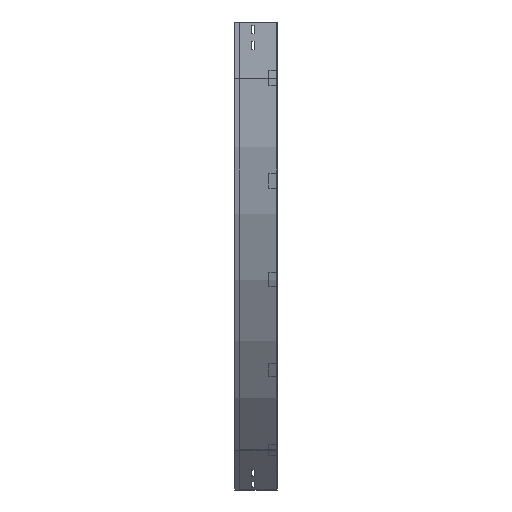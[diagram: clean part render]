
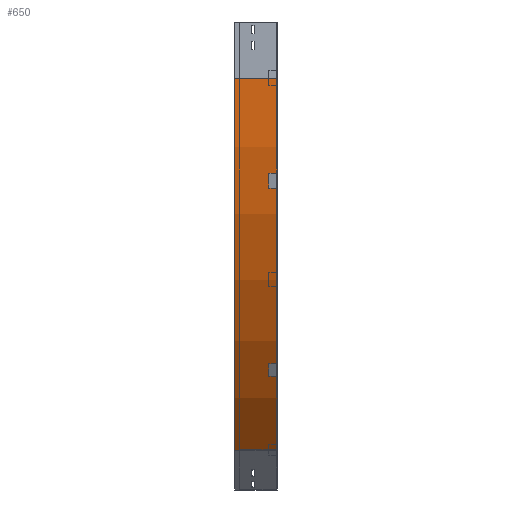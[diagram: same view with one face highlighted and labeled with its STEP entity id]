
A CAD part, left-side view. The second image highlights one B-rep face of the part: STEP entity #650.
In plain terms, the highlighted cylindrical face has radius 1400 mm (diameter 2800 mm), a partial arc.
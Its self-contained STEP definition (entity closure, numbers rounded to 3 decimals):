
#179 = LINE ( 'NONE', #438, #327 ) ;
#187 = ORIENTED_EDGE ( 'NONE', *, *, #558, .T. ) ;
#327 = VECTOR ( 'NONE', #496, 1000. ) ;
#438 = CARTESIAN_POINT ( 'NONE',  ( 0., 0., -150. ) ) ;
#474 = DIRECTION ( 'NONE',  ( 0., -1., 0. ) ) ;
#484 = DIRECTION ( 'NONE',  ( 0., -1., 0. ) ) ;
#496 = DIRECTION ( 'NONE',  ( 0., -1., 0. ) ) ;
#545 = CARTESIAN_POINT ( 'NONE',  ( 1400., 112.5, -150. ) ) ;
#558 = EDGE_CURVE ( 'NONE', #1545, #785, #1681, .T. ) ;
#589 = ORIENTED_EDGE ( 'NONE', *, *, #2281, .T. ) ;
#650 = ADVANCED_FACE ( 'NONE', ( #2604 ), #3173, .T. ) ;
#785 = VERTEX_POINT ( 'NONE', #1496 ) ;
#852 = AXIS2_PLACEMENT_3D ( 'NONE', #1660, #484, #2863 ) ;
#1202 = AXIS2_PLACEMENT_3D ( 'NONE', #2003, #474, #2833 ) ;
#1399 = AXIS2_PLACEMENT_3D ( 'NONE', #545, #1721, #3798 ) ;
#1416 = VERTEX_POINT ( 'NONE', #3205 ) ;
#1496 = CARTESIAN_POINT ( 'NONE',  ( 410.051, 0., -1139.949 ) ) ;
#1545 = VERTEX_POINT ( 'NONE', #3313 ) ;
#1569 = ORIENTED_EDGE ( 'NONE', *, *, #1753, .F. ) ;
#1660 = CARTESIAN_POINT ( 'NONE',  ( 1400., 0., -150. ) ) ;
#1667 = VECTOR ( 'NONE', #2327, 1000. ) ;
#1681 = LINE ( 'NONE', #3811, #1667 ) ;
#1721 = DIRECTION ( 'NONE',  ( 0., -1., 0. ) ) ;
#1753 = EDGE_CURVE ( 'NONE', #1416, #785, #3831, .T. ) ;
#1824 = EDGE_CURVE ( 'NONE', #3206, #1416, #179, .T. ) ;
#2003 = CARTESIAN_POINT ( 'NONE',  ( 1400., 0., -150. ) ) ;
#2281 = EDGE_CURVE ( 'NONE', #3206, #1545, #3775, .T. ) ;
#2327 = DIRECTION ( 'NONE',  ( 0., -1., 0. ) ) ;
#2604 = FACE_OUTER_BOUND ( 'NONE', #3668, .T. ) ;
#2833 = DIRECTION ( 'NONE',  ( -1., 0., 0. ) ) ;
#2863 = DIRECTION ( 'NONE',  ( 0., 0., -1. ) ) ;
#3173 = CYLINDRICAL_SURFACE ( 'NONE', #852, 1400. ) ;
#3205 = CARTESIAN_POINT ( 'NONE',  ( 0., 0., -150. ) ) ;
#3206 = VERTEX_POINT ( 'NONE', #3548 ) ;
#3313 = CARTESIAN_POINT ( 'NONE',  ( 410.051, 112.5, -1139.949 ) ) ;
#3548 = CARTESIAN_POINT ( 'NONE',  ( 0., 112.5, -150. ) ) ;
#3641 = ORIENTED_EDGE ( 'NONE', *, *, #1824, .F. ) ;
#3668 = EDGE_LOOP ( 'NONE', ( #1569, #3641, #589, #187 ) ) ;
#3775 = CIRCLE ( 'NONE', #1399, 1400. ) ;
#3798 = DIRECTION ( 'NONE',  ( -1., 0., 0. ) ) ;
#3811 = CARTESIAN_POINT ( 'NONE',  ( 410.051, 0., -1139.949 ) ) ;
#3831 = CIRCLE ( 'NONE', #1202, 1400. ) ;
